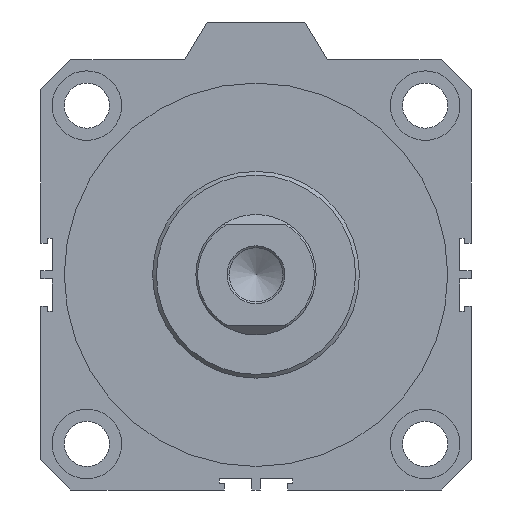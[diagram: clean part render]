
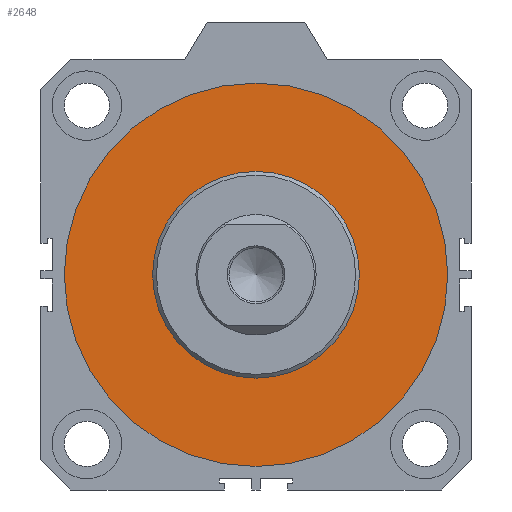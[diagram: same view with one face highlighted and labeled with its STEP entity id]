
A CAD part, front view. The second image highlights one B-rep face of the part: STEP entity #2648.
In plain terms, the highlighted planar face has unit normal (0, -1, 0).
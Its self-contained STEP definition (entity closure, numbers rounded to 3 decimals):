
#432=PLANE('',#2841);
#832=ORIENTED_EDGE('',*,*,#1100,.T.);
#833=ORIENTED_EDGE('',*,*,#1101,.T.);
#1100=EDGE_CURVE('',#1282,#1282,#1363,.T.);
#1101=EDGE_CURVE('',#1283,#1283,#1364,.F.);
#1282=VERTEX_POINT('',#3886);
#1283=VERTEX_POINT('',#3889);
#1363=CIRCLE('',#2840,51.);
#1364=CIRCLE('',#2842,27.5);
#1533=EDGE_LOOP('',(#832));
#1534=EDGE_LOOP('',(#833));
#1727=FACE_BOUND('',#1533,.T.);
#1728=FACE_BOUND('',#1534,.T.);
#2648=ADVANCED_FACE('',(#1727,#1728),#432,.T.);
#2840=AXIS2_PLACEMENT_3D('',#3885,#3331,#3332);
#2841=AXIS2_PLACEMENT_3D('',#3887,#3333,#3334);
#2842=AXIS2_PLACEMENT_3D('',#3888,#3335,#3336);
#3331=DIRECTION('',(0.,-1.,0.));
#3332=DIRECTION('',(0.,0.,-1.));
#3333=DIRECTION('',(0.,-1.,0.));
#3334=DIRECTION('',(0.,0.,-1.));
#3335=DIRECTION('',(0.,-1.,0.));
#3336=DIRECTION('',(0.,0.,-1.));
#3885=CARTESIAN_POINT('',(0.,-4.158,0.));
#3886=CARTESIAN_POINT('',(0.,-4.158,-51.));
#3887=CARTESIAN_POINT('',(0.,-4.158,0.));
#3888=CARTESIAN_POINT('',(0.,-4.158,0.));
#3889=CARTESIAN_POINT('',(0.,-4.158,-27.5));
